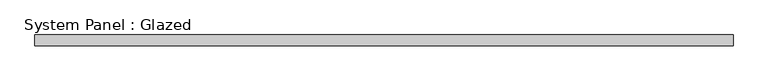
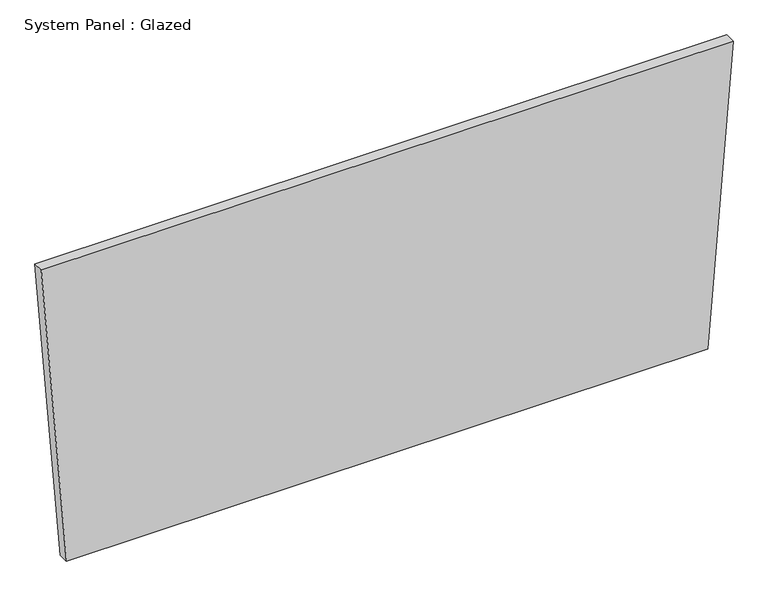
"""IFC4 building model written with IfcOpenShell, lengths in millimetres: plate geometry, System Panel : Glazed."""

from ifc_helpers import new_model, si_unit, frame, origin, place, context, project, spatial, polyline, outline, extrude, source, transform, mapped, element, save


def system_panel_glazed_d9e891e0(model_context):
    return source(origin(), model_context, "Body", "SweptSolid", [
        extrude(outline(polyline([(0.0010743, -753.7729284), (0.0, 753.7728274), (745.1956109, 813.0706635), (745.1954151, -813.0706635), (0.0010743, -753.7729284)])), frame((0.0, 19.05, 0.0), z_axis=(0.0, 1.0, 0.0), x_axis=(0.0, 0.0, 1.0)), (0.0, 0.0, 1.0), 25.4),
    ])


if __name__ == "__main__":
    model = new_model("IFC4")
    model_context = context("Model", 3, world=origin())
    ifc_project = project(units=[si_unit("LENGTHUNIT", "METRE", prefix="MILLI")], contexts=[model_context])
    site = spatial("IfcSite", under=ifc_project)
    building = spatial("IfcBuilding", under=site)
    placement = place(None, origin())
    system_panel_glazed_shape = system_panel_glazed_d9e891e0(model_context)
    element("IfcPlate", 1, ObjectType="System Panel : Glazed", at=placement, inside=building, context=model_context, shape_type="MappedRepresentation", body=[
        mapped(system_panel_glazed_shape, transform((0.0, 0.0, 0.0), x_axis=(1.0, 0.0, 0.0), y_axis=(0.0, 1.0, 0.0), z_axis=(0.0, 0.0, 1.0))),
    ])
    save(model, "model.ifc")
